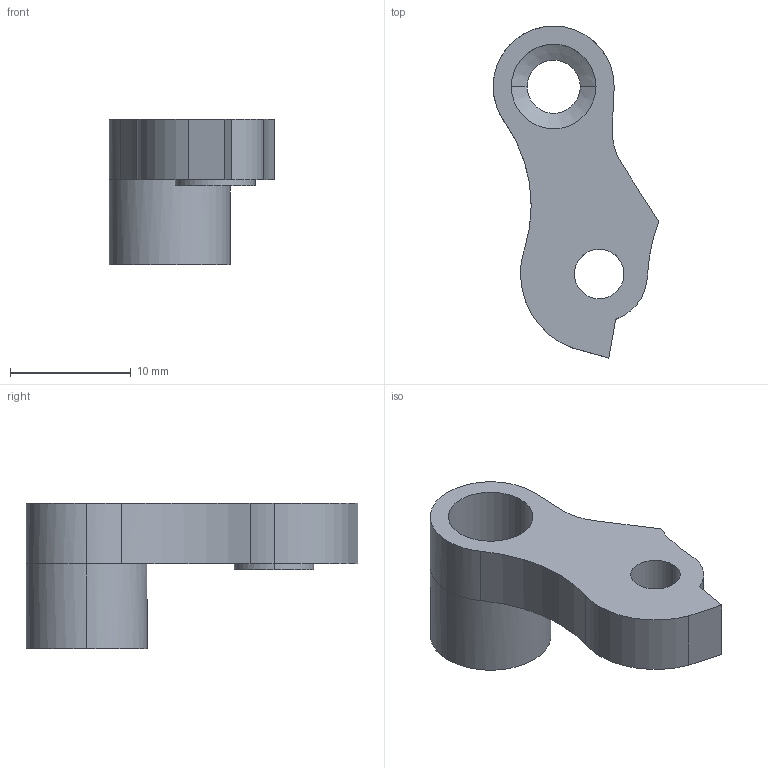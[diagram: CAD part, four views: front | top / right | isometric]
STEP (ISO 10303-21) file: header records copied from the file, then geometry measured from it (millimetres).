
FILE_DESCRIPTION (( 'STEP AP203' ), '1' );
FILE_NAME ('2X_Extruder_Cover_R.STEP', '2014-01-31T05:13:56', ( 'Windows' ), ( '' ), 'SwSTEP 2.0', 'SolidWorks 2013', '' );
FILE_SCHEMA (( 'CONFIG_CONTROL_DESIGN' ));
Length unit declared in the file: millimetre
Products named in the file (1): 2X_Extruder_Cover_R
Bounding box: 13.69 x 27.44 x 12 mm (x, y, z)
Volume: 1245.4 mm3; surface area: 1289.6 mm2
Topology: 1 solids, 1 shells, 32 faces, 80 edges, 51 vertices
Faces by surface type: cylinder 20, plane 10, cone 2
Entity records: 1058 total; most frequent: DIRECTION 191, CARTESIAN_POINT 164, ORIENTED_EDGE 160, EDGE_CURVE 80, AXIS2_PLACEMENT_3D 78, VERTEX_POINT 51, CIRCLE 45, EDGE_LOOP 37
